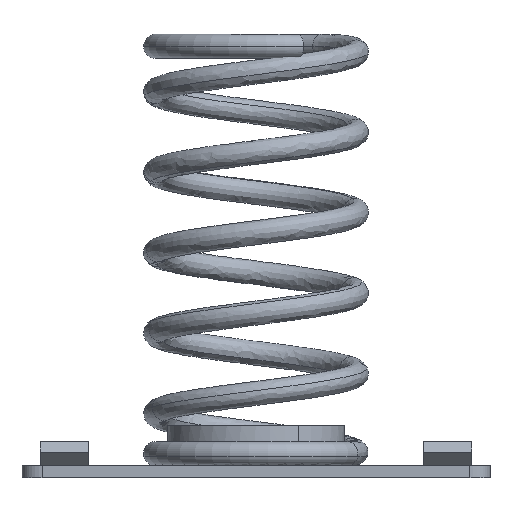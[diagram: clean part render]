
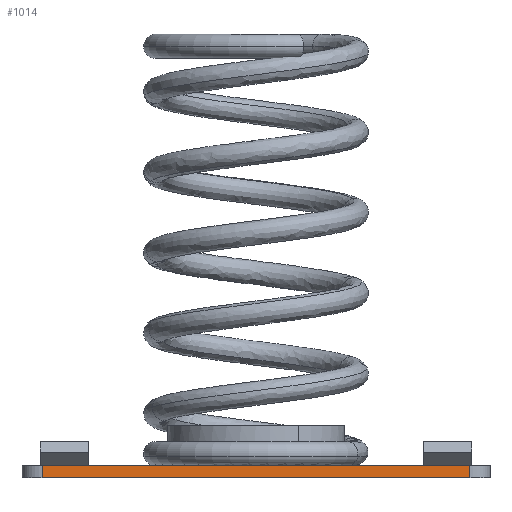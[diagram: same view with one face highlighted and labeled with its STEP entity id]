
A CAD part, front view. The second image highlights one B-rep face of the part: STEP entity #1014.
In plain terms, the highlighted planar face has unit normal (0, -1, 0).
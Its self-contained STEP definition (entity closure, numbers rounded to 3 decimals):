
#434=CARTESIAN_POINT('Vertex',(-5.325,-4.,0.3)) ;
#437=CARTESIAN_POINT('Line Origine',(0.,-4.,0.3)) ;
#441=CARTESIAN_POINT('Vertex',(5.325,-4.,0.3)) ;
#655=CARTESIAN_POINT('Vertex',(5.325,-4.,0.)) ;
#658=CARTESIAN_POINT('Line Origine',(0.,-4.,0.)) ;
#662=CARTESIAN_POINT('Vertex',(-5.325,-4.,0.)) ;
#986=CARTESIAN_POINT('Line Origine',(-5.325,-4.,0.15)) ;
#998=CARTESIAN_POINT('Axis2P3D Location',(-5.825,-4.,0.)) ;
#1003=CARTESIAN_POINT('Line Origine',(5.325,-4.,0.15)) ;
#438=DIRECTION('Vector Direction',(1.,0.,0.)) ;
#659=DIRECTION('Vector Direction',(1.,0.,0.)) ;
#987=DIRECTION('Vector Direction',(0.,0.,1.)) ;
#999=DIRECTION('Axis2P3D Direction',(0.,-1.,0.)) ;
#1000=DIRECTION('Axis2P3D XDirection',(1.,0.,0.)) ;
#1004=DIRECTION('Vector Direction',(0.,0.,1.)) ;
#1001=AXIS2_PLACEMENT_3D('Plane Axis2P3D',#998,#999,#1000) ;
#1009=ORIENTED_EDGE('',*,*,#443,.F.) ;
#1010=ORIENTED_EDGE('',*,*,#990,.F.) ;
#1011=ORIENTED_EDGE('',*,*,#664,.T.) ;
#1012=ORIENTED_EDGE('',*,*,#1007,.T.) ;
#439=VECTOR('Line Direction',#438,1.) ;
#660=VECTOR('Line Direction',#659,1.) ;
#988=VECTOR('Line Direction',#987,1.) ;
#1005=VECTOR('Line Direction',#1004,1.) ;
#1014=ADVANCED_FACE('PartBody',(#1013),#1002,.T.) ;
#443=EDGE_CURVE('',#435,#442,#440,.T.) ;
#664=EDGE_CURVE('',#663,#656,#661,.T.) ;
#990=EDGE_CURVE('',#663,#435,#989,.T.) ;
#1007=EDGE_CURVE('',#656,#442,#1006,.T.) ;
#1008=EDGE_LOOP('',(#1009,#1010,#1011,#1012)) ;
#1013=FACE_OUTER_BOUND('',#1008,.T.) ;
#440=LINE('Line',#437,#439) ;
#661=LINE('Line',#658,#660) ;
#989=LINE('Line',#986,#988) ;
#1006=LINE('Line',#1003,#1005) ;
#1002=PLANE('Plane',#1001) ;
#435=VERTEX_POINT('',#434) ;
#442=VERTEX_POINT('',#441) ;
#656=VERTEX_POINT('',#655) ;
#663=VERTEX_POINT('',#662) ;
